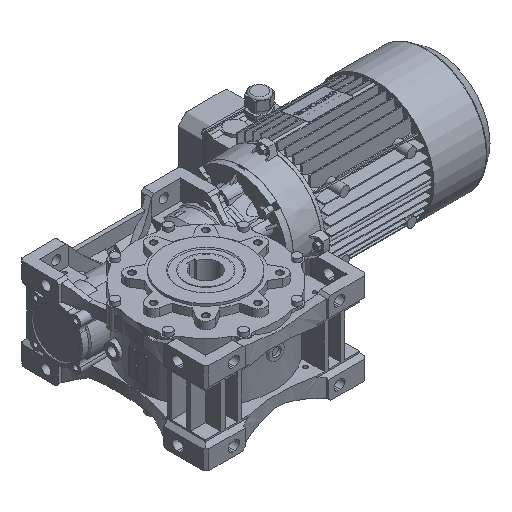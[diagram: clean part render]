
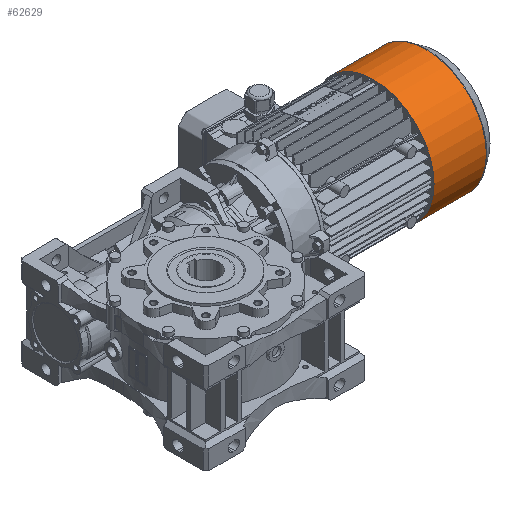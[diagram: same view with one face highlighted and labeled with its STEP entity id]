
A CAD part, isometric view. The second image highlights one B-rep face of the part: STEP entity #62629.
In plain terms, the highlighted cylindrical face has radius 95.45 mm (diameter 190.9 mm), a full revolution.
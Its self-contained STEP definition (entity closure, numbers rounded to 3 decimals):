
#5930=CIRCLE('',#69361,95.45);
#5931=CIRCLE('',#69363,95.45);
#24136=ORIENTED_EDGE('',*,*,#33318,.F.);
#24137=ORIENTED_EDGE('',*,*,#33317,.T.);
#33317=EDGE_CURVE('',#39456,#39456,#5930,.T.);
#33318=EDGE_CURVE('',#39457,#39457,#5931,.T.);
#39456=VERTEX_POINT('',#108632);
#39457=VERTEX_POINT('',#108635);
#53949=EDGE_LOOP('',(#24136));
#53950=EDGE_LOOP('',(#24137));
#57809=FACE_BOUND('',#53949,.T.);
#57810=FACE_BOUND('',#53950,.T.);
#59237=CYLINDRICAL_SURFACE('',#69362,95.45);
#62629=ADVANCED_FACE('',(#57809,#57810),#59237,.T.);
#69361=AXIS2_PLACEMENT_3D('',#108631,#88054,#88055);
#69362=AXIS2_PLACEMENT_3D('',#108633,#88056,#88057);
#69363=AXIS2_PLACEMENT_3D('',#108634,#88058,#88059);
#88054=DIRECTION('',(1.,0.,0.));
#88055=DIRECTION('',(0.,0.,-1.));
#88056=DIRECTION('',(1.,0.,0.));
#88057=DIRECTION('',(0.,0.,-1.));
#88058=DIRECTION('',(1.,0.,0.));
#88059=DIRECTION('',(0.,0.,-1.));
#108631=CARTESIAN_POINT('',(0.,0.,0.));
#108632=CARTESIAN_POINT('',(0.,0.,-95.45));
#108633=CARTESIAN_POINT('',(101.,0.,0.));
#108634=CARTESIAN_POINT('',(82.589,0.,0.));
#108635=CARTESIAN_POINT('',(82.589,0.,-95.45));
